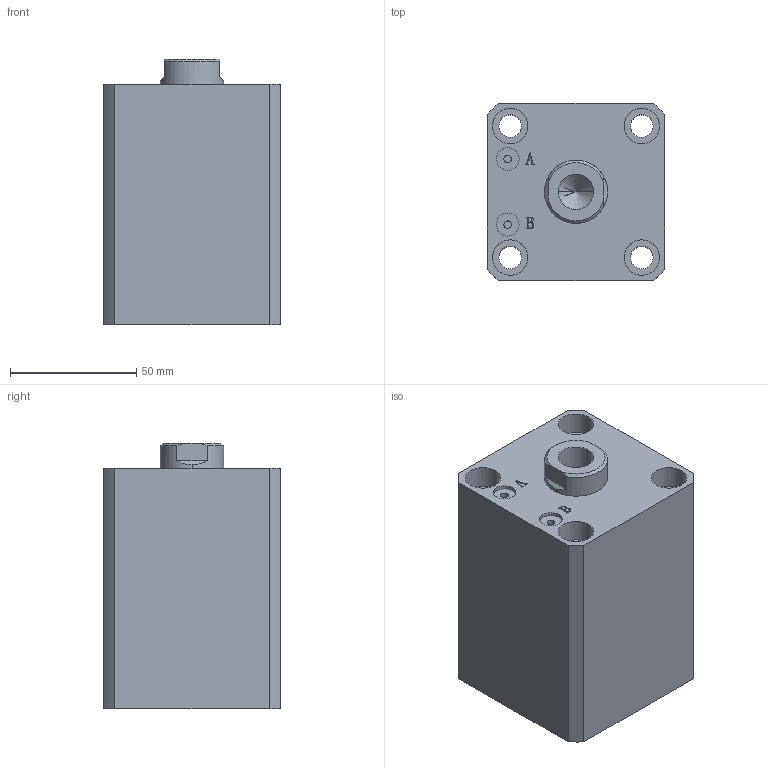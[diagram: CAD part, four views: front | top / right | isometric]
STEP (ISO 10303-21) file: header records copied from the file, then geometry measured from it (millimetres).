
FILE_DESCRIPTION (( 'STEP AP203' ), '1' );
FILE_NAME ('HTB-SDMA40-40N.STEP', '2019-10-07T11:52:51', ( '微软用户' ), ( '微软中国' ), 'SwSTEP 2.0', 'SolidWorks 2012', '' );
FILE_SCHEMA (( 'CONFIG_CONTROL_DESIGN' ));
Length unit declared in the file: millimetre
Products named in the file (3): HTB-SDMA40-40N; HTB-SDMA40-40N活塞杆; HTB-SDMA40-40掛极
Assembly tree (2 placements, depth 2):
  HTB-SDMA40-40N
    HTB-SDMA40-40掛极
    HTB-SDMA40-40N活塞杆
Bounding box: 70 x 70 x 105 mm (x, y, z)
Volume: 401183.8 mm3; surface area: 69850.6 mm2
Topology: 2 solids, 2 shells, 137 faces, 331 edges, 217 vertices
Faces by surface type: plane 65, cylinder 46, bspline 16, torus 6, cone 4
Entity records: 5074 total; most frequent: CARTESIAN_POINT 1580, ORIENTED_EDGE 658, DIRECTION 647, EDGE_CURVE 329, AXIS2_PLACEMENT_3D 232, VERTEX_POINT 217, VECTOR 183, LINE 183
